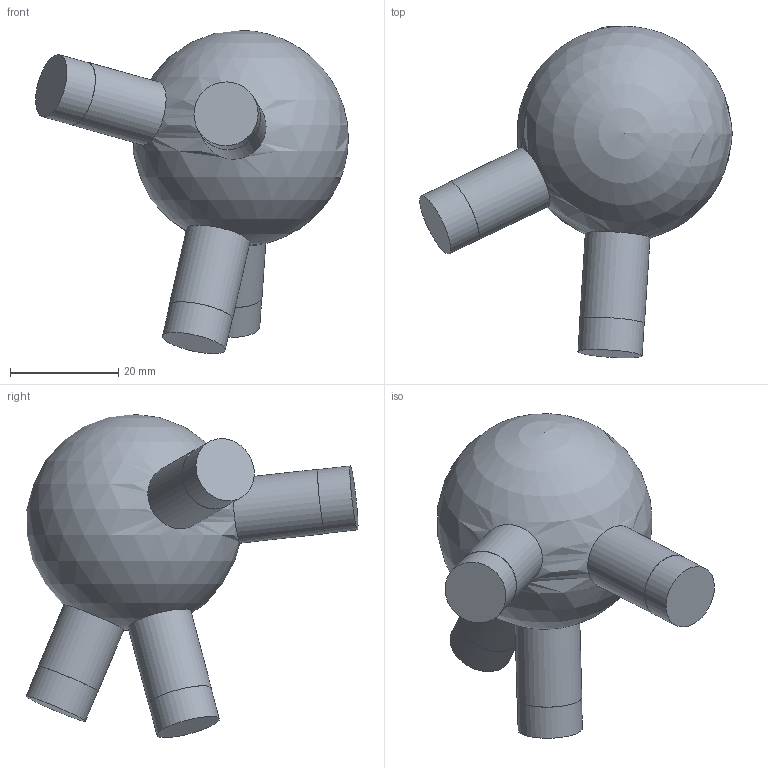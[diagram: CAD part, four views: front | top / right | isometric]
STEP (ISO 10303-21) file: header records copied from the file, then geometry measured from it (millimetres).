
FILE_DESCRIPTION(('Open CASCADE Model'),'2;1');
FILE_NAME('Open CASCADE Shape Model','2026-10-21T12:47:57',('Author'),( 'Open CASCADE'),'Open CASCADE STEP processor 7.9','Open CASCADE 7.9' ,'Unknown');
FILE_SCHEMA(('AUTOMOTIVE_DESIGN { 1 0 10303 214 1 1 1 1 }'));
Length unit declared in the file: millimetre
Products named in the file (1): Open CASCADE STEP translator 7.9 42
Bounding box: 57.88 x 61.44 x 59.83 mm (x, y, z)
Volume: 42572.7 mm3; surface area: 8114.2 mm2
Topology: 1 solids, 1 shells, 17 faces, 27 edges, 18 vertices
Faces by surface type: cylinder 8, plane 8, sphere 1
Full cylindrical faces by diameter (mm): 11.9 x4, 12 x4
Entity records: 1081 total; most frequent: CARTESIAN_POINT 496, DIRECTION 120, ORIENTED_EDGE 48, PCURVE 48, DEFINITIONAL_REPRESENTATION 48, LINE 40, VECTOR 40, AXIS2_PLACEMENT_3D 34
